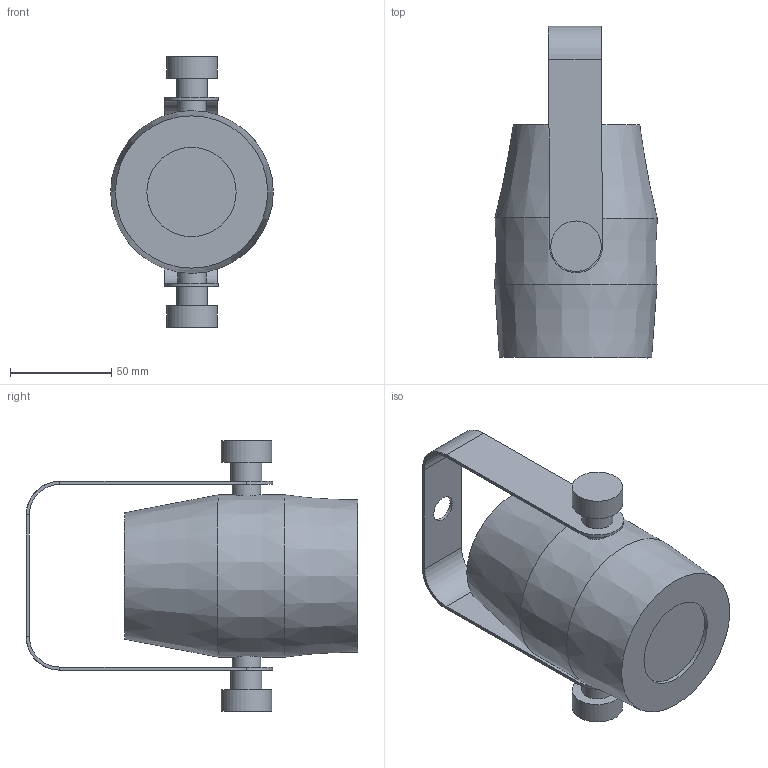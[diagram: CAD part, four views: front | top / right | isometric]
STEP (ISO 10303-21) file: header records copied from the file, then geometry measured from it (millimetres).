
FILE_DESCRIPTION(/* description */ (''),/* implementation_level */ '2;1');
FILE_NAME(/* name */ 'D:/dgooch/Documents/CADENG/PRO/Colordash Accent 3/0/3D/Colordash Accent 3_0.step',/* time_stamp */ '2019-09-11T14:23:15-04:00',/* author */ (''),/* organization */ (''),/* preprocessor_version */ 'ST-DEVELOPER v18',/* originating_system */ 'Autodesk Translation Framework v8.6.0.1094',/* authorisation */ '');
FILE_SCHEMA (('AUTOMOTIVE_DESIGN { 1 0 10303 214 3 1 1 }'));
Length unit declared in the file: millimetre
Products named in the file (3): Colordash Accent 3; Bracket; Main
Assembly tree (2 placements, depth 2):
  Colordash Accent 3
    Bracket
    Main
Bounding box: 80.14 x 163.54 x 133.24 mm (x, y, z)
Volume: 542531.3 mm3; surface area: 56969.6 mm2
Topology: 3 solids, 3 shells, 45 faces, 97 edges, 64 vertices
Faces by surface type: plane 27, cylinder 15, cone 3
Full cylindrical faces by diameter (mm): 5.2 x1, 13 x1, 14 x2, 15.313 x2, 24.873 x2, 44 x1
Entity records: 1389 total; most frequent: CARTESIAN_POINT 280, DIRECTION 239, ORIENTED_EDGE 194, EDGE_CURVE 97, AXIS2_PLACEMENT_3D 97, VERTEX_POINT 64, EDGE_LOOP 53, CIRCLE 47
